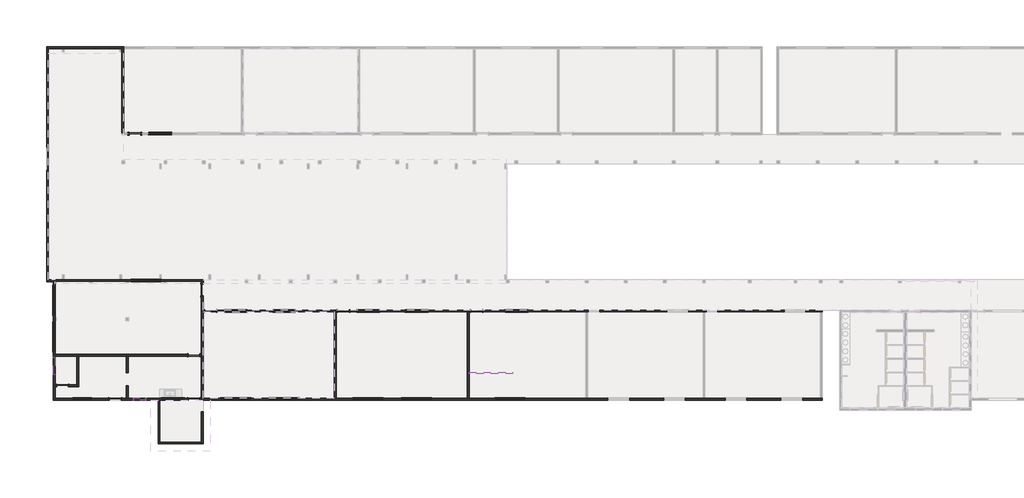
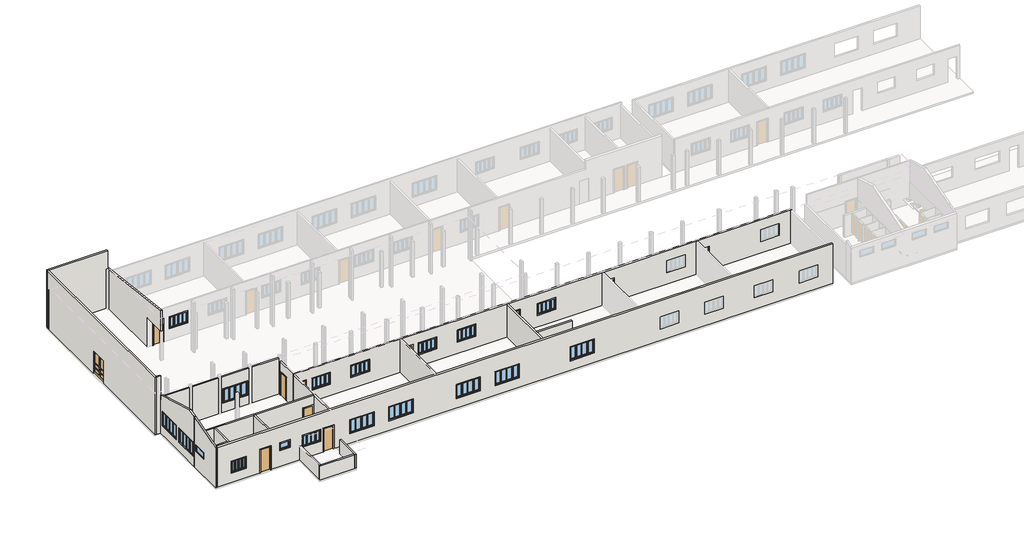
# One storey, part 1 of 5: 21 walls, 18 windows, 10 doors.
"""IFC4 building model written with IfcOpenShell, lengths in millimetres."""

from ifc_helpers import new_model, si_unit, frame, origin, origin_with_axes, place, context, project, spatial, polyline, outline, extrude, faceted_brep, transform, mapped, element, save
from components import double_panel_1_no_trim_1600_x_2100_mm_973be516, m_single_flush_0800_x_2100mm_0fb022da, m_single_flush_0800_x_2100mm_21ec692d, m_single_flush_0813_x_2134mm_26e178a3, m_single_flush_0813_x_2134mm_af9e47f0, casement_quad_w_trim_1200_x_1000_mm_793000f8, casement_quad_w_trim_1500_x_1000_mm_b7d6dd6f, casement_quad_w_trim_1500_x_1000_mm_8fcab8cd, casement_quad_w_trim_2000_x_1000_mm_c4cc244c, casement_quad_w_trim_2000_x_1000_mm_fe9ded81, janela_30db3b55, transom_with_trim_0600_x_0800_mm_3df043d3

model = new_model("IFC4")

# Units and contexts
model_context = context("Model", 3, world=origin())
ifc_project = project(units=[si_unit("LENGTHUNIT", "METRE", prefix="MILLI")], contexts=[model_context])

# Site, building, storey
site = spatial("IfcSite", under=ifc_project)
building = spatial("IfcBuilding", under=site)
storey = spatial("IfcBuildingStorey", under=building, Name="Planta de implantação", Elevation=0.0)

# Doors
placement = place(None, origin())
double_panel_1_no_trim_1600_x_2100_mm_shape = double_panel_1_no_trim_1600_x_2100_mm_973be516(model_context)
element("IfcDoor", 1, ObjectType="Double-Panel 1_no trim : 1600 x 2100 mm", at=placement, inside=storey, context=model_context, shape_type="MappedRepresentation", body=[
    mapped(double_panel_1_no_trim_1600_x_2100_mm_shape, transform((-35375.2352635, -12188.3222718, 0.0), x_axis=(0.0, -1.0, 0.0), y_axis=(1.0, 0.0, 0.0), z_axis=(0.0, 0.0, 1.0))),
])
m_single_flush_0800_x_2100mm_shape = m_single_flush_0800_x_2100mm_0fb022da(model_context)
element("IfcDoor", 2, ObjectType="M_Single-Flush : 0800 x 2100mm", at=placement, inside=storey, context=model_context, shape_type="MappedRepresentation", body=[
    mapped(m_single_flush_0800_x_2100mm_shape, transform((-24140.2352635, -22683.3222718, 0.0), x_axis=(-1.0, 0.0, 0.0), y_axis=(0.0, -1.0, 0.0), z_axis=(0.0, 0.0, 1.0))),
])
element("IfcDoor", 3, ObjectType="M_Single-Flush : 0800 x 2100mm", at=placement, inside=storey, context=model_context, shape_type="MappedRepresentation", body=[
    mapped(m_single_flush_0800_x_2100mm_shape, transform((-14960.2352635, -22683.3222718, 0.0), x_axis=(-1.0, 0.0, 0.0), y_axis=(0.0, -1.0, 0.0), z_axis=(0.0, 0.0, 1.0))),
])
element("IfcDoor", 4, ObjectType="M_Single-Flush : 0800 x 2100mm", at=placement, inside=storey, context=model_context, shape_type="MappedRepresentation", body=[
    mapped(m_single_flush_0800_x_2100mm_shape, transform((-5780.2352635, -22683.3222718, 0.0), x_axis=(-1.0, 0.0, 0.0), y_axis=(0.0, -1.0, 0.0), z_axis=(0.0, 0.0, 1.0))),
])
element("IfcDoor", 5, ObjectType="M_Single-Flush : 0800 x 2100mm", at=placement, inside=storey, context=model_context, shape_type="MappedRepresentation", body=[
    mapped(m_single_flush_0800_x_2100mm_shape, transform((-24705.2352635, -21248.3222718, 0.0), x_axis=(0.0, 1.0, 0.0), y_axis=(-1.0, 0.0, 0.0), z_axis=(0.0, 0.0, 1.0))),
])
m_single_flush_0800_x_2100mm_2_shape = m_single_flush_0800_x_2100mm_21ec692d(model_context)
element("IfcDoor", 6, ObjectType="M_Single-Flush : 0800 x 2100mm", at=placement, inside=storey, context=model_context, shape_type="MappedRepresentation", body=[
    mapped(m_single_flush_0800_x_2100mm_2_shape, transform((-29350.2352635, -10453.3222718, 0.0), x_axis=(-1.0, 0.0, 0.0), y_axis=(0.0, -1.0, 0.0), z_axis=(0.0, 0.0, 1.0))),
])
m_single_flush_0813_x_2134mm_shape = m_single_flush_0813_x_2134mm_26e178a3(model_context)
element("IfcDoor", 7, ObjectType="M_Single-Flush : 0813 x 2134mm", at=placement, inside=storey, context=model_context, shape_type="MappedRepresentation", body=[
    mapped(m_single_flush_0813_x_2134mm_shape, transform((-25270.2352635, -28763.3222718, 0.0), x_axis=(1.0, 0.0, 0.0), y_axis=(0.0, 1.0, 0.0), z_axis=(0.0, 0.0, 1.0))),
])
element("IfcDoor", 8, ObjectType="M_Single-Flush : 0813 x 2134mm", at=placement, inside=storey, context=model_context, shape_type="MappedRepresentation", body=[
    mapped(m_single_flush_0813_x_2134mm_shape, transform((-30700.2352635, -28763.3222718, 0.0), x_axis=(1.0, 0.0, 0.0), y_axis=(0.0, 1.0, 0.0), z_axis=(0.0, 0.0, 1.0))),
])
m_single_flush_0813_x_2134mm_2_shape = m_single_flush_0813_x_2134mm_af9e47f0(model_context)
element("IfcDoor", 9, ObjectType="M_Single-Flush : 0813 x 2134mm", at=placement, inside=storey, context=model_context, shape_type="MappedRepresentation", body=[
    mapped(m_single_flush_0813_x_2134mm_2_shape, transform((-25270.2352635, -25733.3222718, 0.0), x_axis=(1.0, 0.0, 0.0), y_axis=(0.0, 1.0, 0.0), z_axis=(0.0, 0.0, 1.0))),
])
element("IfcDoor", 10, ObjectType="M_Single-Flush : 0813 x 2134mm", at=placement, inside=storey, context=model_context, shape_type="MappedRepresentation", body=[
    mapped(m_single_flush_0813_x_2134mm_2_shape, transform((-34350.2352635, -27833.3222718, 0.0), x_axis=(-1.0, 0.0, 0.0), y_axis=(0.0, -1.0, 0.0), z_axis=(0.0, 0.0, 1.0))),
])

# Walls
element("IfcWall", 11, ObjectType="Generic - 130mm", at=placement, inside=storey, context=model_context, shape_type="SweptSolid", body=[
    extrude(outline(polyline([(-6280.2352635, -26893.3222718), (-3275.2352635, -26893.3222718), (-3275.2352635, -27023.3222718), (-6280.2352635, -27023.3222718), (-6280.2352635, -26893.3222718)])), frame((0.0, 0.0, 2100.0), z_axis=(0.0, 0.0, 1.0), x_axis=(1.0, 0.0, 0.0)), (0.0, 0.0, 1.0), 900.0),
])
element("IfcWall", 12, ObjectType="Generic - 130mm", at=placement, inside=storey, context=model_context, shape_type="Brep", body=[
    faceted_brep([(-30260.2352635, -4458.3222718, 3568.8), (-30260.2352635, -4458.3222718, 0.0), (-30260.2352635, -4588.3222718, 0.0), (-30260.2352635, -10388.3222718, 0.0), (-30260.2352635, -10388.3222718, 2700.0), (-30260.2352635, -10518.3222718, 2700.0), (-30260.2352635, -12518.3222718, 2700.0), (-30260.2352635, -12518.3222718, 4536.0), (-30130.2352635, -4458.3222718, 0.0), (-30130.2352635, -4458.3222718, 3180.0), (-30130.2352635, -4458.3222718, 3568.8), (-30130.2352635, -12518.3222718, 4536.0), (-30130.2352635, -12518.3222718, 2700.0), (-30130.2352635, -10518.3222718, 2700.0), (-30130.2352635, -10388.3222718, 2700.0), (-30130.2352635, -10388.3222718, 0.0), (-30130.2352635, -4588.3222718, 0.0)], [[[0, 1, 2, 3, 4, 5, 6, 7]], [[8, 9, 10, 11, 12, 13, 14, 15, 16]], [[3, 2, 1, 8, 16, 15]], [[6, 5, 4, 14, 13, 12]], [[7, 6, 12, 11]], [[0, 7, 11, 10]], [[0, 10, 9, 8, 1]], [[4, 3, 15, 14]]]),
])
element("IfcWall", 13, ObjectType="Generic - 130mm", at=placement, inside=storey, context=model_context, shape_type="Brep", body=[
    faceted_brep([(-34850.2352635, -28828.3222718, 0.0), (-34850.2352635, -28698.3222718, 0.0), (-34850.2352635, -25798.3222718, 0.0), (-34850.2352635, -25668.3222718, 0.0), (-34850.2352635, -25668.3222718, 3000.0), (-34850.2352635, -25668.3222718, 4533.0), (-34850.2352635, -28698.3222718, 3624.0), (-34850.2352635, -28828.3222718, 3585.0), (-34850.2352635, -27068.3222718, 1500.0), (-34850.2352635, -27068.3222718, 2100.0), (-34850.2352635, -25868.3222718, 2100.0), (-34850.2352635, -25868.3222718, 1500.0), (-34980.2352635, -25668.3222718, 0.0), (-34980.2352635, -28828.3222718, 0.0), (-34980.2352635, -28828.3222718, 3585.0), (-34980.2352635, -25668.3222718, 4533.0), (-34980.2352635, -27068.3222718, 2100.0), (-34980.2352635, -27068.3222718, 1500.0), (-34980.2352635, -25868.3222718, 1500.0), (-34980.2352635, -25868.3222718, 2100.0)], [[[0, 1, 2, 3, 4, 5, 6, 7], [8, 9, 10, 11]], [[12, 13, 14, 15], [16, 17, 18, 19]], [[3, 2, 1, 0, 13, 12]], [[0, 7, 14, 13]], [[5, 4, 3, 12, 15]], [[7, 6, 5, 15, 14]], [[8, 17, 16, 9]], [[9, 16, 19, 10]], [[10, 19, 18, 11]], [[17, 8, 11, 18]]]),
])
element("IfcWall", 14, ObjectType="Generic - 130mm", at=placement, inside=storey, context=model_context, shape_type="Brep", body=[
    faceted_brep([(-34850.2352635, -28828.3222718, 3585.0), (-34850.2352635, -28828.3222718, 0.0), (-31100.2852635, -28828.3222718, 0.0), (-31100.2852635, -28828.3222718, 2100.0), (-30300.1852635, -28828.3222718, 2100.0), (-30300.1852635, -28828.3222718, 0.0), (-27750.2352635, -28828.3222718, 0.0), (-27620.2352635, -28828.3222718, 0.0), (-25670.2852635, -28828.3222718, 0.0), (-25670.2852635, -28828.3222718, 2100.0), (-24870.1852635, -28828.3222718, 2100.0), (-24870.1852635, -28828.3222718, 0.0), (18079.7647365, -28828.3222718, 0.0), (18079.7647365, -28828.3222718, 3585.0), (-33575.2352635, -28828.3222718, 900.0), (-33575.2352635, -28828.3222718, 1900.0), (-32375.2352635, -28828.3222718, 1900.0), (-32375.2352635, -28828.3222718, 900.0), (-29420.2352635, -28828.3222718, 1500.0), (-29420.2352635, -28828.3222718, 2100.0), (-28620.2352635, -28828.3222718, 2100.0), (-28620.2352635, -28828.3222718, 1500.0), (-23390.2352635, -28828.3222718, 900.0), (-23390.2352635, -28828.3222718, 2100.0), (-21390.2352635, -28828.3222718, 2100.0), (-21390.2352635, -28828.3222718, 900.0), (-20040.2352635, -28828.3222718, 900.0), (-20040.2352635, -28828.3222718, 2100.0), (-18040.2352635, -28828.3222718, 2100.0), (-18040.2352635, -28828.3222718, 900.0), (-14260.2352635, -28828.3222718, 900.0), (-14260.2352635, -28828.3222718, 2100.0), (-12260.2352635, -28828.3222718, 2100.0), (-12260.2352635, -28828.3222718, 900.0), (-10910.2352635, -28828.3222718, 900.0), (-10910.2352635, -28828.3222718, 2100.0), (-8910.2352635, -28828.3222718, 2100.0), (-8910.2352635, -28828.3222718, 900.0), (-4455.2352635, -28828.3222718, 900.0), (-4455.2352635, -28828.3222718, 2100.0), (-2455.2352635, -28828.3222718, 2100.0), (-2455.2352635, -28828.3222718, 900.0), (3279.7647365, -28828.3222718, 1100.0), (3279.7647365, -28828.3222718, 2100.0), (4779.7647365, -28828.3222718, 2100.0), (4779.7647365, -28828.3222718, 1100.0), (7129.7647365, -28828.3222718, 1100.0), (7129.7647365, -28828.3222718, 2100.0), (8629.7647365, -28828.3222718, 2100.0), (8629.7647365, -28828.3222718, 1100.0), (-27470.2352635, -28828.3222718, 1100.0), (-27470.2352635, -28828.3222718, 2100.0), (-25970.2352635, -28828.3222718, 2100.0), (-25970.2352635, -28828.3222718, 1100.0), (11379.7647365, -28828.3222718, 1100.0), (11379.7647365, -28828.3222718, 2100.0), (12879.7647365, -28828.3222718, 2100.0), (12879.7647365, -28828.3222718, 1100.0), (15229.7647365, -28828.3222718, 1100.0), (15229.7647365, -28828.3222718, 2100.0), (16729.7647365, -28828.3222718, 2100.0), (16729.7647365, -28828.3222718, 1100.0), (-34850.2352635, -28698.3222718, 0.0), (-34850.2352635, -28698.3222718, 3624.0), (18079.7647365, -28698.3222718, 3624.0), (18079.7647365, -28698.3222718, 3000.0), (18079.7647365, -28698.3222718, 0.0), (17949.7647365, -28698.3222718, 0.0), (9979.7647365, -28698.3222718, 0.0), (9849.7647365, -28698.3222718, 0.0), (1899.7647365, -28698.3222718, 0.0), (1769.7647365, -28698.3222718, 0.0), (-6280.2352635, -28698.3222718, 0.0), (-6410.2352635, -28698.3222718, 0.0), (-15460.2352635, -28698.3222718, 0.0), (-15590.2352635, -28698.3222718, 0.0), (-24640.2352635, -28698.3222718, 0.0), (-24770.2352635, -28698.3222718, 0.0), (-24870.1852635, -28698.3222718, 0.0), (-24870.1852635, -28698.3222718, 2100.0), (-25670.2852635, -28698.3222718, 2100.0), (-25670.2852635, -28698.3222718, 0.0), (-29820.2352635, -28698.3222718, 0.0), (-29950.2352635, -28698.3222718, 0.0), (-30300.1852635, -28698.3222718, 0.0), (-30300.1852635, -28698.3222718, 2100.0), (-31100.2852635, -28698.3222718, 2100.0), (-31100.2852635, -28698.3222718, 0.0), (-33575.2352635, -28698.3222718, 1900.0), (-33575.2352635, -28698.3222718, 900.0), (-32375.2352635, -28698.3222718, 900.0), (-32375.2352635, -28698.3222718, 1900.0), (-29420.2352635, -28698.3222718, 2100.0), (-29420.2352635, -28698.3222718, 1500.0), (-28620.2352635, -28698.3222718, 1500.0), (-28620.2352635, -28698.3222718, 2100.0), (-23390.2352635, -28698.3222718, 2100.0), (-23390.2352635, -28698.3222718, 900.0), (-21390.2352635, -28698.3222718, 900.0), (-21390.2352635, -28698.3222718, 2100.0), (-20040.2352635, -28698.3222718, 2100.0), (-20040.2352635, -28698.3222718, 900.0), (-18040.2352635, -28698.3222718, 900.0), (-18040.2352635, -28698.3222718, 2100.0), (-14260.2352635, -28698.3222718, 2100.0), (-14260.2352635, -28698.3222718, 900.0), (-12260.2352635, -28698.3222718, 900.0), (-12260.2352635, -28698.3222718, 2100.0), (-10910.2352635, -28698.3222718, 2100.0), (-10910.2352635, -28698.3222718, 900.0), (-8910.2352635, -28698.3222718, 900.0), (-8910.2352635, -28698.3222718, 2100.0), (-4455.2352635, -28698.3222718, 2100.0), (-4455.2352635, -28698.3222718, 900.0), (-2455.2352635, -28698.3222718, 900.0), (-2455.2352635, -28698.3222718, 2100.0), (3279.7647365, -28698.3222718, 2100.0), (3279.7647365, -28698.3222718, 1100.0), (4779.7647365, -28698.3222718, 1100.0), (4779.7647365, -28698.3222718, 2100.0), (7129.7647365, -28698.3222718, 2100.0), (7129.7647365, -28698.3222718, 1100.0), (8629.7647365, -28698.3222718, 1100.0), (8629.7647365, -28698.3222718, 2100.0), (-27470.2352635, -28698.3222718, 2100.0), (-27470.2352635, -28698.3222718, 1100.0), (-25970.2352635, -28698.3222718, 1100.0), (-25970.2352635, -28698.3222718, 2100.0), (11379.7647365, -28698.3222718, 2100.0), (11379.7647365, -28698.3222718, 1100.0), (12879.7647365, -28698.3222718, 1100.0), (12879.7647365, -28698.3222718, 2100.0), (15229.7647365, -28698.3222718, 2100.0), (15229.7647365, -28698.3222718, 1100.0), (16729.7647365, -28698.3222718, 1100.0), (16729.7647365, -28698.3222718, 2100.0)], [[[0, 1, 2, 3, 4, 5, 6, 7, 8, 9, 10, 11, 12, 13], [14, 15, 16, 17], [18, 19, 20, 21], [22, 23, 24, 25], [26, 27, 28, 29], [30, 31, 32, 33], [34, 35, 36, 37], [38, 39, 40, 41], [42, 43, 44, 45], [46, 47, 48, 49], [50, 51, 52, 53], [54, 55, 56, 57], [58, 59, 60, 61]], [[62, 63, 64, 65, 66, 67, 68, 69, 70, 71, 72, 73, 74, 75, 76, 77, 78, 79, 80, 81, 82, 83, 84, 85, 86, 87], [88, 89, 90, 91], [92, 93, 94, 95], [96, 97, 98, 99], [100, 101, 102, 103], [104, 105, 106, 107], [108, 109, 110, 111], [112, 113, 114, 115], [116, 117, 118, 119], [120, 121, 122, 123], [124, 125, 126, 127], [128, 129, 130, 131], [132, 133, 134, 135]], [[1, 62, 87, 2]], [[66, 12, 11, 78, 77, 76, 75, 74, 73, 72, 71, 70, 69, 68, 67]], [[81, 8, 7, 6, 5, 84, 83, 82]], [[1, 0, 63, 62]], [[13, 12, 66, 65, 64]], [[0, 13, 64, 63]], [[79, 78, 11, 10]], [[80, 79, 10, 9]], [[81, 80, 9, 8]], [[85, 84, 5, 4]], [[86, 85, 4, 3]], [[87, 86, 3, 2]], [[89, 88, 15, 14]], [[90, 89, 14, 17]], [[91, 90, 17, 16]], [[88, 91, 16, 15]], [[93, 92, 19, 18]], [[94, 93, 18, 21]], [[95, 94, 21, 20]], [[92, 95, 20, 19]], [[97, 96, 23, 22]], [[98, 97, 22, 25]], [[99, 98, 25, 24]], [[96, 99, 24, 23]], [[101, 100, 27, 26]], [[102, 101, 26, 29]], [[103, 102, 29, 28]], [[100, 103, 28, 27]], [[105, 104, 31, 30]], [[106, 105, 30, 33]], [[107, 106, 33, 32]], [[104, 107, 32, 31]], [[109, 108, 35, 34]], [[110, 109, 34, 37]], [[111, 110, 37, 36]], [[108, 111, 36, 35]], [[113, 112, 39, 38]], [[114, 113, 38, 41]], [[115, 114, 41, 40]], [[112, 115, 40, 39]], [[117, 116, 43, 42]], [[118, 117, 42, 45]], [[119, 118, 45, 44]], [[116, 119, 44, 43]], [[121, 120, 47, 46]], [[122, 121, 46, 49]], [[123, 122, 49, 48]], [[120, 123, 48, 47]], [[125, 124, 51, 50]], [[126, 125, 50, 53]], [[127, 126, 53, 52]], [[124, 127, 52, 51]], [[128, 55, 54, 129]], [[129, 54, 57, 130]], [[130, 57, 56, 131]], [[55, 128, 131, 56]], [[132, 59, 58, 133]], [[133, 58, 61, 134]], [[134, 61, 60, 135]], [[59, 132, 135, 60]]]),
])
element("IfcWall", 15, ObjectType="Generic - 130mm", at=placement, inside=storey, context=model_context, shape_type="Brep", body=[
    faceted_brep([(18079.7647365, -22748.3222718, 3000.0), (17949.7647365, -22748.3222718, 3000.0), (9979.7647365, -22748.3222718, 3000.0), (9849.7647365, -22748.3222718, 3000.0), (1899.7647365, -22748.3222718, 3000.0), (1769.7647365, -22748.3222718, 3000.0), (-6280.2352635, -22748.3222718, 3000.0), (-6410.2352635, -22748.3222718, 3000.0), (-15460.2352635, -22748.3222718, 3000.0), (-15590.2352635, -22748.3222718, 3000.0), (-24640.2352635, -22748.3222718, 3000.0), (-24770.2352635, -22748.3222718, 3000.0), (-24770.2352635, -22748.3222718, 0.0), (-24640.2352635, -22748.3222718, 0.0), (-24540.2352635, -22748.3222718, 0.0), (-24540.2352635, -22748.3222718, 2100.0), (-23740.2352635, -22748.3222718, 2100.0), (-23740.2352635, -22748.3222718, 0.0), (-15590.2352635, -22748.3222718, 0.0), (-15460.2352635, -22748.3222718, 0.0), (-15360.2352635, -22748.3222718, 0.0), (-15360.2352635, -22748.3222718, 2100.0), (-14560.2352635, -22748.3222718, 2100.0), (-14560.2352635, -22748.3222718, 0.0), (-6410.2352635, -22748.3222718, 0.0), (-6280.2352635, -22748.3222718, 0.0), (-6180.2352635, -22748.3222718, 0.0), (-6180.2352635, -22748.3222718, 2100.0), (-5380.2352635, -22748.3222718, 2100.0), (-5380.2352635, -22748.3222718, 0.0), (1769.7647365, -22748.3222718, 0.0), (1899.7647365, -22748.3222718, 0.0), (1939.7647365, -22748.3222718, 0.0), (1939.7647365, -22748.3222718, 2100.0), (2739.7647365, -22748.3222718, 2100.0), (2739.7647365, -22748.3222718, 0.0), (9849.7647365, -22748.3222718, 0.0), (9979.7647365, -22748.3222718, 0.0), (10079.7647365, -22748.3222718, 0.0), (10079.7647365, -22748.3222718, 2100.0), (10879.7647365, -22748.3222718, 2100.0), (10879.7647365, -22748.3222718, 0.0), (17949.7647365, -22748.3222718, 0.0), (18079.7647365, -22748.3222718, 0.0), (15444.7647365, -22748.3222718, 1100.0), (15444.7647365, -22748.3222718, 2100.0), (16944.7647365, -22748.3222718, 2100.0), (16944.7647365, -22748.3222718, 1100.0), (7349.7647365, -22748.3222718, 1100.0), (7349.7647365, -22748.3222718, 2100.0), (8849.7647365, -22748.3222718, 2100.0), (8849.7647365, -22748.3222718, 1100.0), (-3755.2352635, -22748.3222718, 2100.0), (-2255.2352635, -22748.3222718, 2100.0), (-2255.2352635, -22748.3222718, 1100.0), (-3755.2352635, -22748.3222718, 1100.0), (-14010.2352635, -22748.3222718, 2100.0), (-12510.2352635, -22748.3222718, 2100.0), (-12510.2352635, -22748.3222718, 1100.0), (-14010.2352635, -22748.3222718, 1100.0), (-9160.2352635, -22748.3222718, 2100.0), (-9160.2352635, -22748.3222718, 1100.0), (-10660.2352635, -22748.3222718, 1100.0), (-10660.2352635, -22748.3222718, 2100.0), (-23140.2352635, -22748.3222718, 2100.0), (-21640.2352635, -22748.3222718, 2100.0), (-21640.2352635, -22748.3222718, 1100.0), (-23140.2352635, -22748.3222718, 1100.0), (-18290.2352635, -22748.3222718, 2100.0), (-18290.2352635, -22748.3222718, 1100.0), (-19790.2352635, -22748.3222718, 1100.0), (-19790.2352635, -22748.3222718, 2100.0), (-24770.2352635, -22618.3222718, 3000.0), (-24640.2352635, -22618.3222718, 3000.0), (18079.7647365, -22618.3222718, 3000.0), (18079.7647365, -22618.3222718, 0.0), (10879.7647365, -22618.3222718, 0.0), (10879.7647365, -22618.3222718, 2100.0), (10079.7647365, -22618.3222718, 2100.0), (10079.7647365, -22618.3222718, 0.0), (2739.7647365, -22618.3222718, 0.0), (2739.7647365, -22618.3222718, 2100.0), (1939.7647365, -22618.3222718, 2100.0), (1939.7647365, -22618.3222718, 0.0), (-5380.2352635, -22618.3222718, 0.0), (-5380.2352635, -22618.3222718, 2100.0), (-6180.2352635, -22618.3222718, 2100.0), (-6180.2352635, -22618.3222718, 0.0), (-14560.2352635, -22618.3222718, 0.0), (-14560.2352635, -22618.3222718, 2100.0), (-15360.2352635, -22618.3222718, 2100.0), (-15360.2352635, -22618.3222718, 0.0), (-23740.2352635, -22618.3222718, 0.0), (-23740.2352635, -22618.3222718, 2100.0), (-24540.2352635, -22618.3222718, 2100.0), (-24540.2352635, -22618.3222718, 0.0), (-24640.2352635, -22618.3222718, 0.0), (-24770.2352635, -22618.3222718, 0.0), (15444.7647365, -22618.3222718, 2100.0), (15444.7647365, -22618.3222718, 1100.0), (16944.7647365, -22618.3222718, 1100.0), (16944.7647365, -22618.3222718, 2100.0), (7349.7647365, -22618.3222718, 2100.0), (7349.7647365, -22618.3222718, 1100.0), (8849.7647365, -22618.3222718, 1100.0), (8849.7647365, -22618.3222718, 2100.0), (-3755.2352635, -22618.3222718, 2100.0), (-3755.2352635, -22618.3222718, 1100.0), (-2255.2352635, -22618.3222718, 1100.0), (-2255.2352635, -22618.3222718, 2100.0), (-14010.2352635, -22618.3222718, 2100.0), (-14010.2352635, -22618.3222718, 1100.0), (-12510.2352635, -22618.3222718, 1100.0), (-12510.2352635, -22618.3222718, 2100.0), (-9160.2352635, -22618.3222718, 2100.0), (-10660.2352635, -22618.3222718, 2100.0), (-10660.2352635, -22618.3222718, 1100.0), (-9160.2352635, -22618.3222718, 1100.0), (-23140.2352635, -22618.3222718, 2100.0), (-23140.2352635, -22618.3222718, 1100.0), (-21640.2352635, -22618.3222718, 1100.0), (-21640.2352635, -22618.3222718, 2100.0), (-18290.2352635, -22618.3222718, 2100.0), (-19790.2352635, -22618.3222718, 2100.0), (-19790.2352635, -22618.3222718, 1100.0), (-18290.2352635, -22618.3222718, 1100.0)], [[[0, 1, 2, 3, 4, 5, 6, 7, 8, 9, 10, 11, 12, 13, 14, 15, 16, 17, 18, 19, 20, 21, 22, 23, 24, 25, 26, 27, 28, 29, 30, 31, 32, 33, 34, 35, 36, 37, 38, 39, 40, 41, 42, 43], [44, 45, 46, 47], [48, 49, 50, 51], [52, 53, 54, 55], [56, 57, 58, 59], [60, 61, 62, 63], [64, 65, 66, 67], [68, 69, 70, 71]], [[72, 73, 74, 75, 76, 77, 78, 79, 80, 81, 82, 83, 84, 85, 86, 87, 88, 89, 90, 91, 92, 93, 94, 95, 96, 97], [98, 99, 100, 101], [102, 103, 104, 105], [106, 107, 108, 109], [110, 111, 112, 113], [114, 115, 116, 117], [118, 119, 120, 121], [122, 123, 124, 125]], [[95, 14, 13, 12, 97, 96]], [[17, 92, 91, 20, 19, 18]], [[23, 88, 87, 26, 25, 24]], [[29, 84, 83, 32, 31, 30]], [[35, 80, 79, 38, 37, 36]], [[41, 76, 75, 43, 42]], [[11, 10, 9, 8, 7, 6, 5, 4, 3, 2, 1, 0, 74, 73, 72]], [[15, 14, 95, 94]], [[16, 15, 94, 93]], [[17, 16, 93, 92]], [[21, 20, 91, 90]], [[22, 21, 90, 89]], [[23, 22, 89, 88]], [[27, 26, 87, 86]], [[28, 27, 86, 85]], [[29, 28, 85, 84]], [[33, 32, 83, 82]], [[34, 33, 82, 81]], [[35, 34, 81, 80]], [[39, 38, 79, 78]], [[40, 39, 78, 77]], [[41, 40, 77, 76]], [[12, 11, 72, 97]], [[0, 43, 75, 74]], [[98, 45, 44, 99]], [[99, 44, 47, 100]], [[100, 47, 46, 101]], [[45, 98, 101, 46]], [[102, 49, 48, 103]], [[103, 48, 51, 104]], [[104, 51, 50, 105]], [[49, 102, 105, 50]], [[107, 106, 52, 55]], [[108, 107, 55, 54]], [[109, 108, 54, 53]], [[106, 109, 53, 52]], [[111, 110, 56, 59]], [[112, 111, 59, 58]], [[113, 112, 58, 57]], [[110, 113, 57, 56]], [[61, 60, 114, 117]], [[62, 61, 117, 116]], [[63, 62, 116, 115]], [[60, 63, 115, 114]], [[119, 118, 64, 67]], [[120, 119, 67, 66]], [[121, 120, 66, 65]], [[118, 121, 65, 64]], [[69, 68, 122, 125]], [[70, 69, 125, 124]], [[71, 70, 124, 123]], [[68, 71, 123, 122]]]),
])
element("IfcWall", 16, ObjectType="Generic - 130mm", at=placement, inside=storey, context=model_context, shape_type="Brep", body=[
    faceted_brep([(-24640.2352635, -28698.3222718, 0.0), (-24640.2352635, -22748.3222718, 0.0), (-24640.2352635, -22748.3222718, 3000.0), (-24640.2352635, -28698.3222718, 3000.0), (-24770.2352635, -28698.3222718, 0.0), (-24770.2352635, -28698.3222718, 3000.0), (-24770.2352635, -25798.3222718, 3000.0), (-24770.2352635, -25668.3222718, 3000.0), (-24770.2352635, -22748.3222718, 3000.0), (-24770.2352635, -22748.3222718, 0.0), (-24770.2352635, -25668.3222718, 0.0), (-24770.2352635, -25798.3222718, 0.0)], [[[0, 1, 2, 3]], [[4, 5, 6, 7, 8, 9, 10, 11]], [[1, 0, 4, 11, 10, 9]], [[3, 2, 8, 7, 6, 5]], [[0, 3, 5, 4]], [[2, 1, 9, 8]]]),
])
element("IfcWall", 17, ObjectType="Generic - 130mm", at=placement, inside=storey, context=model_context, shape_type="SweptSolid", body=[
    extrude(outline(polyline([(-15460.2352635, -22748.3222718), (-15460.2352635, -28698.3222718), (-15590.2352635, -28698.3222718), (-15590.2352635, -22748.3222718), (-15460.2352635, -22748.3222718)])), origin_with_axes(), (0.0, 0.0, 1.0), 3000.0),
])
element("IfcWall", 18, ObjectType="Generic - 130mm", at=placement, inside=storey, context=model_context, shape_type="Brep", body=[
    faceted_brep([(-6280.2352635, -28698.3222718, 0.0), (-6280.2352635, -22748.3222718, 0.0), (-6280.2352635, -22748.3222718, 3000.0), (-6280.2352635, -26893.3222718, 3000.0), (-6280.2352635, -27023.3222718, 3000.0), (-6280.2352635, -28698.3222718, 3000.0), (-6410.2352635, -28698.3222718, 0.0), (-6410.2352635, -28698.3222718, 3000.0), (-6410.2352635, -22748.3222718, 3000.0), (-6410.2352635, -22748.3222718, 0.0)], [[[0, 1, 2, 3, 4, 5]], [[6, 7, 8, 9]], [[1, 0, 6, 9]], [[5, 4, 3, 2, 8, 7]], [[0, 5, 7, 6]], [[2, 1, 9, 8]]]),
])
element("IfcWall", 19, ObjectType="Generic - 130mm", at=placement, inside=storey, context=model_context, shape_type="SweptSolid", body=[
    extrude(outline(polyline([(-28698.3222718, 3000.0), (-25798.3222718, 3000.0), (-25798.3222718, 0.0), (-26948.3222718, 0.0), (-26948.3222718, 2100.0), (-27848.3222718, 2100.0), (-27848.3222718, 0.0), (-28698.3222718, 0.0), (-28698.3222718, 3000.0)])), frame((-29950.2352635, 0.0, 0.0), z_axis=(1.0, 0.0, 0.0), x_axis=(0.0, 1.0, 0.0)), (0.0, 0.0, 1.0), 130.0),
])
element("IfcWall", 20, ObjectType="Generic - 130mm", at=placement, inside=storey, context=model_context, shape_type="Brep", body=[
    faceted_brep([(-24770.2352635, -25668.3222718, 0.0), (-24870.1852635, -25668.3222718, 0.0), (-24870.1852635, -25668.3222718, 2100.0), (-25670.2852635, -25668.3222718, 2100.0), (-25670.2852635, -25668.3222718, 0.0), (-34850.2352635, -25668.3222718, 0.0), (-34850.2352635, -25668.3222718, 3000.0), (-24770.2352635, -25668.3222718, 3000.0), (-24870.1852635, -25798.3222718, 2100.0), (-24870.1852635, -25798.3222718, 0.0), (-24770.2352635, -25798.3222718, 0.0), (-24770.2352635, -25798.3222718, 3000.0), (-29820.2352635, -25798.3222718, 3000.0), (-29950.2352635, -25798.3222718, 3000.0), (-34850.2352635, -25798.3222718, 3000.0), (-34850.2352635, -25798.3222718, 0.0), (-29950.2352635, -25798.3222718, 0.0), (-29820.2352635, -25798.3222718, 0.0), (-25670.2852635, -25798.3222718, 0.0), (-25670.2852635, -25798.3222718, 2100.0)], [[[0, 1, 2, 3, 4, 5, 6, 7]], [[8, 9, 10, 11, 12, 13, 14, 15, 16, 17, 18, 19]], [[18, 17, 16, 15, 5, 4]], [[10, 9, 1, 0]], [[7, 6, 14, 13, 12, 11]], [[0, 7, 11, 10]], [[6, 5, 15, 14]], [[2, 1, 9, 8]], [[3, 2, 8, 19]], [[4, 3, 19, 18]]]),
])
element("IfcWall", 21, ObjectType="Generic - 130mm", at=placement, inside=storey, context=model_context, shape_type="SweptSolid", body=[
    extrude(outline(polyline([(-24770.2352635, -31858.3222718), (-24770.2352635, -29628.3222718), (-24640.2352635, -29628.3222718), (-24640.2352635, -31858.3222718), (-24770.2352635, -31858.3222718)])), origin_with_axes(), (0.0, 0.0, 1.0), 1250.0),
])
element("IfcWall", 22, ObjectType="Generic - 130mm", at=placement, inside=storey, context=model_context, shape_type="Brep", body=[
    faceted_brep([(-24770.2352635, -31728.3222718, 0.0), (-27620.2352635, -31728.3222718, 0.0), (-27750.2352635, -31728.3222718, 0.0), (-27750.2352635, -31728.3222718, 1250.1911148), (-27750.2352635, -31728.3222718, 1254.837294), (-24770.2352635, -31728.3222718, 1254.837294), (-24770.2352635, -31858.3222718, 0.0), (-24770.2352635, -31858.3222718, 1254.837294), (-27750.2352635, -31858.3222718, 1254.837294), (-27750.2352635, -31858.3222718, 0.0)], [[[0, 1, 2, 3, 4, 5]], [[6, 7, 8, 9]], [[2, 1, 0, 6, 9]], [[5, 4, 8, 7]], [[0, 5, 7, 6]], [[4, 3, 2, 9, 8]]]),
])
element("IfcWall", 23, ObjectType="Generic - 130mm", at=placement, inside=storey, context=model_context, shape_type="SweptSolid", body=[
    extrude(outline(polyline([(-27620.2352635, -28828.3222718), (-27620.2352635, -31728.3222718), (-27750.2352635, -31728.3222718), (-27750.2352635, -28828.3222718), (-27620.2352635, -28828.3222718)])), origin_with_axes(), (0.0, 0.0, 1.0), 1250.1911148),
])
element("IfcWall", 24, ObjectType="Generic - 130mm", at=placement, inside=storey, context=model_context, shape_type="Brep", body=[
    faceted_brep([(-24640.2352635, -20518.3222718, 0.0), (-34980.2352635, -20518.3222718, 0.0), (-34980.2352635, -20518.3222718, 3238.4457071), (-24640.2352635, -20518.3222718, 3238.4457071), (-29570.2352635, -20518.3222718, 2100.0), (-29570.2352635, -20518.3222718, 900.0), (-27570.2352635, -20518.3222718, 900.0), (-27570.2352635, -20518.3222718, 2100.0), (-34980.2352635, -20648.3222718, 0.0), (-34850.2352635, -20648.3222718, 0.0), (-24770.2352635, -20648.3222718, 0.0), (-24640.2352635, -20648.3222718, 0.0), (-24640.2352635, -20648.3222718, 3000.0), (-24640.2352635, -20648.3222718, 3238.4457071), (-34980.2352635, -20648.3222718, 3238.4457071), (-34980.2352635, -20648.3222718, 3000.0), (-29570.2352635, -20648.3222718, 900.0), (-29570.2352635, -20648.3222718, 2100.0), (-27570.2352635, -20648.3222718, 2100.0), (-27570.2352635, -20648.3222718, 900.0), (-34980.2352635, -20528.3222718, 0.0)], [[[0, 1, 2, 3], [4, 5, 6, 7]], [[8, 9, 10, 11, 12, 13, 14, 15], [16, 17, 18, 19]], [[2, 1, 20, 8, 15, 14]], [[0, 3, 13, 12, 11]], [[4, 17, 16, 5]], [[5, 16, 19, 6]], [[6, 19, 18, 7]], [[17, 4, 7, 18]], [[1, 0, 11, 10, 9, 8, 20]], [[3, 2, 14, 13]]]),
])
element("IfcWall", 25, ObjectType="Generic - 130mm", at=placement, inside=storey, context=model_context, shape_type="Brep", body=[
    faceted_brep([(-34980.2352635, -20648.3222718, 0.0), (-34980.2352635, -20658.3222718, 0.0), (-34980.2352635, -25668.3222718, 0.0), (-34980.2352635, -25668.3222718, 4533.0), (-34980.2352635, -24948.3222718, 4749.0), (-34980.2352635, -20718.3222718, 3480.0), (-34980.2352635, -20718.3222718, 3000.0), (-34980.2352635, -20648.3222718, 3000.0), (-34980.2352635, -23468.3222718, 900.0), (-34980.2352635, -23468.3222718, 2100.0), (-34980.2352635, -25468.3222718, 2100.0), (-34980.2352635, -25468.3222718, 900.0), (-34980.2352635, -20948.3222718, 900.0), (-34980.2352635, -20948.3222718, 2100.0), (-34980.2352635, -22948.3222718, 2100.0), (-34980.2352635, -22948.3222718, 900.0), (-34850.2352635, -25668.3222718, 0.0), (-34850.2352635, -20648.3222718, 0.0), (-34850.2352635, -20648.3222718, 3000.0), (-34850.2352635, -20718.3222718, 3000.0), (-34850.2352635, -20718.3222718, 3480.0), (-34850.2352635, -24948.3222718, 4749.0), (-34850.2352635, -25668.3222718, 4533.0), (-34850.2352635, -23468.3222718, 2100.0), (-34850.2352635, -23468.3222718, 900.0), (-34850.2352635, -25468.3222718, 900.0), (-34850.2352635, -25468.3222718, 2100.0), (-34850.2352635, -20948.3222718, 2100.0), (-34850.2352635, -20948.3222718, 900.0), (-34850.2352635, -22948.3222718, 900.0), (-34850.2352635, -22948.3222718, 2100.0)], [[[0, 1, 2, 3, 4, 5, 6, 7], [8, 9, 10, 11], [12, 13, 14, 15]], [[16, 17, 18, 19, 20, 21, 22], [23, 24, 25, 26], [27, 28, 29, 30]], [[2, 1, 0, 17, 16]], [[0, 7, 18, 17]], [[3, 2, 16, 22]], [[23, 9, 8, 24]], [[24, 8, 11, 25]], [[25, 11, 10, 26]], [[9, 23, 26, 10]], [[27, 13, 12, 28]], [[28, 12, 15, 29]], [[29, 15, 14, 30]], [[13, 27, 30, 14]], [[18, 7, 6, 19]], [[19, 6, 5, 20]], [[20, 5, 4, 21]], [[3, 22, 21, 4]]]),
])
element("IfcWall", 26, ObjectType="Generic - 130mm", at=placement, inside=storey, context=model_context, shape_type="SweptSolid", body=[
    extrude(outline(polyline([(-22618.3222718, 3000.0), (-20648.3222718, 3000.0), (-20648.3222718, 0.0), (-20848.3222718, 0.0), (-20848.3222718, 2100.0), (-21648.3222718, 2100.0), (-21648.3222718, 0.0), (-22618.3222718, 0.0), (-22618.3222718, 3000.0)])), frame((-24770.2352635, 0.0, 0.0), z_axis=(1.0, 0.0, 0.0), x_axis=(0.0, 1.0, 0.0)), (0.0, 0.0, 1.0), 130.0),
])
element("IfcWall", 27, ObjectType="Generic - 130mm", at=placement, inside=storey, context=model_context, shape_type="Brep", body=[
    faceted_brep([(-33350.2352635, -25798.3222718, 0.0), (-33350.2352635, -27768.3222718, 0.0), (-33350.2352635, -27898.3222718, 0.0), (-33350.2352635, -27898.3222718, 3000.0), (-33350.2352635, -27768.3222718, 3000.0), (-33350.2352635, -25798.3222718, 3000.0), (-33220.2352635, -25798.3222718, 0.0), (-33220.2352635, -25798.3222718, 3000.0), (-33220.2352635, -27898.3222718, 3000.0), (-33220.2352635, -27898.3222718, 0.0)], [[[0, 1, 2, 3, 4, 5]], [[6, 7, 8, 9]], [[2, 1, 0, 6, 9]], [[5, 4, 3, 8, 7]], [[0, 5, 7, 6]], [[3, 2, 9, 8]]]),
])
element("IfcWall", 28, ObjectType="Generic - 130mm", at=placement, inside=storey, context=model_context, shape_type="SweptSolid", body=[
    extrude(outline(polyline([(0.0, -34850.2352635), (0.0, -34750.2852635), (2100.0, -34750.2852635), (2100.0, -33950.1852635), (0.0, -33950.1852635), (0.0, -33350.2352635), (3000.0, -33350.2352635), (3000.0, -34850.2352635), (0.0, -34850.2352635)])), frame((0.0, -27898.3222718, 0.0), z_axis=(0.0, 1.0, 0.0), x_axis=(0.0, 0.0, 1.0)), (0.0, 0.0, 1.0), 130.0),
])
element("IfcWall", 29, ObjectType="Generic - 130mm", at=placement, inside=storey, context=model_context, shape_type="Brep", body=[
    faceted_brep([(-30260.2352635, -4458.3222718, 0.0), (-35440.2352635, -4458.3222718, 0.0), (-35440.2352635, -4458.3222718, 5200.0), (-30260.2352635, -4458.3222718, 5200.0), (-30260.2352635, -4458.3222718, 3568.8), (-30260.2352635, -4588.3222718, 0.0), (-30260.2352635, -4588.3222718, 5200.0), (-35310.2352635, -4588.3222718, 5200.0), (-35440.2352635, -4588.3222718, 5200.0), (-35440.2352635, -4588.3222718, 0.0), (-35310.2352635, -4588.3222718, 0.0)], [[[0, 1, 2, 3, 4]], [[5, 6, 7, 8, 9, 10]], [[1, 0, 5, 10, 9]], [[3, 2, 8, 7, 6]], [[0, 4, 3, 6, 5]], [[2, 1, 9, 8]]]),
])
element("IfcWall", 30, ObjectType="Generic - 130mm", at=placement, inside=storey, context=model_context, shape_type="Brep", body=[
    faceted_brep([(-35440.2352635, -20658.3222718, 5200.0), (-35440.2352635, -4588.3222718, 5200.0), (-35440.2352635, -4588.3222718, 0.0), (-35440.2352635, -11388.3222718, 0.0), (-35440.2352635, -11388.3222718, 2100.0), (-35440.2352635, -12988.3222718, 2100.0), (-35440.2352635, -12988.3222718, 0.0), (-35440.2352635, -20658.3222718, 0.0), (-35310.2352635, -4588.3222718, 5200.0), (-35310.2352635, -20528.3222718, 5200.0), (-35310.2352635, -20658.3222718, 5200.0), (-35310.2352635, -20658.3222718, 0.0), (-35310.2352635, -20528.3222718, 0.0), (-35310.2352635, -12988.3222718, 0.0), (-35310.2352635, -12988.3222718, 2100.0), (-35310.2352635, -11388.3222718, 2100.0), (-35310.2352635, -11388.3222718, 0.0), (-35310.2352635, -4588.3222718, 0.0)], [[[0, 1, 2, 3, 4, 5, 6, 7]], [[8, 9, 10, 11, 12, 13, 14, 15, 16, 17]], [[2, 17, 16, 3]], [[11, 7, 6, 13, 12]], [[1, 0, 10, 9, 8]], [[2, 1, 8, 17]], [[0, 7, 11, 10]], [[5, 14, 13, 6]], [[14, 5, 4, 15]], [[15, 4, 3, 16]]]),
])
element("IfcWall", 31, ObjectType="Generic - 130mm", at=placement, inside=storey, context=model_context, shape_type="Brep", body=[
    faceted_brep([(-35310.2352635, -20658.3222718, 0.0), (-34980.2352635, -20658.3222718, 0.0), (-34980.2352635, -20658.3222718, 5200.0), (-35310.2352635, -20658.3222718, 5200.0), (-35310.2352635, -20528.3222718, 0.0), (-35310.2352635, -20528.3222718, 5200.0), (-34980.2352635, -20528.3222718, 5200.0), (-34980.2352635, -20528.3222718, 0.0), (-34980.2352635, -20648.3222718, 0.0)], [[[0, 1, 2, 3]], [[4, 5, 6, 7]], [[1, 0, 4, 7, 8]], [[3, 2, 6, 5]], [[0, 3, 5, 4]], [[2, 1, 8, 7, 6]]]),
])

# Windows
casement_quad_w_trim_1200_x_1000_mm_shape = casement_quad_w_trim_1200_x_1000_mm_793000f8(model_context)
element("IfcWindow", 32, ObjectType="Casement-Quad w Trim : 1200 x 1000 mm", at=placement, inside=storey, context=model_context, shape_type="MappedRepresentation", body=[
    mapped(casement_quad_w_trim_1200_x_1000_mm_shape, transform((-32975.2352635, -28782.3722718, -14.4), x_axis=(-1.0, 0.0, 0.0), y_axis=(0.0, -1.0, 0.0), z_axis=(0.0, 0.0, 1.0))),
])
casement_quad_w_trim_1500_x_1000_mm_shape = casement_quad_w_trim_1500_x_1000_mm_b7d6dd6f(model_context)
element("IfcWindow", 33, ObjectType="Casement-Quad w Trim : 1500 x 1000 mm", at=placement, inside=storey, context=model_context, shape_type="MappedRepresentation", body=[
    mapped(casement_quad_w_trim_1500_x_1000_mm_shape, transform((-19040.2352635, -22664.2722718, 185.6), x_axis=(1.0, 0.0, 0.0), y_axis=(0.0, 1.0, 0.0), z_axis=(0.0, 0.0, 1.0))),
])
element("IfcWindow", 34, ObjectType="Casement-Quad w Trim : 1500 x 1000 mm", at=placement, inside=storey, context=model_context, shape_type="MappedRepresentation", body=[
    mapped(casement_quad_w_trim_1500_x_1000_mm_shape, transform((-22390.2352635, -22702.3722718, 185.6), x_axis=(-1.0, 0.0, 0.0), y_axis=(0.0, -1.0, 0.0), z_axis=(0.0, 0.0, 1.0))),
])
element("IfcWindow", 35, ObjectType="Casement-Quad w Trim : 1500 x 1000 mm", at=placement, inside=storey, context=model_context, shape_type="MappedRepresentation", body=[
    mapped(casement_quad_w_trim_1500_x_1000_mm_shape, transform((-9910.2352635, -22664.2722718, 185.6), x_axis=(1.0, 0.0, 0.0), y_axis=(0.0, 1.0, 0.0), z_axis=(0.0, 0.0, 1.0))),
])
element("IfcWindow", 36, ObjectType="Casement-Quad w Trim : 1500 x 1000 mm", at=placement, inside=storey, context=model_context, shape_type="MappedRepresentation", body=[
    mapped(casement_quad_w_trim_1500_x_1000_mm_shape, transform((-13260.2352635, -22702.3722718, 185.6), x_axis=(-1.0, 0.0, 0.0), y_axis=(0.0, -1.0, 0.0), z_axis=(0.0, 0.0, 1.0))),
])
element("IfcWindow", 37, ObjectType="Casement-Quad w Trim : 1500 x 1000 mm", at=placement, inside=storey, context=model_context, shape_type="MappedRepresentation", body=[
    mapped(casement_quad_w_trim_1500_x_1000_mm_shape, transform((-3005.2352635, -22702.3722718, 185.6), x_axis=(-1.0, 0.0, 0.0), y_axis=(0.0, -1.0, 0.0), z_axis=(0.0, 0.0, 1.0))),
])
element("IfcWindow", 38, ObjectType="Casement-Quad w Trim : 1500 x 1000 mm", at=placement, inside=storey, context=model_context, shape_type="MappedRepresentation", body=[
    mapped(casement_quad_w_trim_1500_x_1000_mm_shape, transform((-26720.2352635, -28782.3722718, 185.6), x_axis=(-1.0, 0.0, 0.0), y_axis=(0.0, -1.0, 0.0), z_axis=(0.0, 0.0, 1.0))),
])
casement_quad_w_trim_1500_x_1000_mm_2_shape = casement_quad_w_trim_1500_x_1000_mm_8fcab8cd(model_context)
element("IfcWindow", 39, ObjectType="Casement-Quad w Trim : 1500 x 1000 mm", at=placement, inside=storey, context=model_context, shape_type="MappedRepresentation", body=[
    mapped(casement_quad_w_trim_1500_x_1000_mm_2_shape, transform((-27600.2352635, -10434.2722718, 185.6), x_axis=(-1.0, 0.0, 0.0), y_axis=(0.0, -1.0, 0.0), z_axis=(0.0, 0.0, 1.0))),
])
casement_quad_w_trim_2000_x_1000_mm_shape = casement_quad_w_trim_2000_x_1000_mm_c4cc244c(model_context)
element("IfcWindow", 40, ObjectType="Casement-Quad w Trim : 2000 x 1000 mm", at=placement, inside=storey, context=model_context, shape_type="MappedRepresentation", body=[
    mapped(casement_quad_w_trim_2000_x_1000_mm_shape, transform((-3455.2352635, -28782.3722718, -14.4), x_axis=(-1.0, 0.0, 0.0), y_axis=(0.0, -1.0, 0.0), z_axis=(0.0, 0.0, 1.0))),
])
casement_quad_w_trim_2000_x_1000_mm_2_shape = casement_quad_w_trim_2000_x_1000_mm_fe9ded81(model_context)
element("IfcWindow", 41, ObjectType="Casement-Quad w Trim : 2000 x 1000 mm", at=placement, inside=storey, context=model_context, shape_type="MappedRepresentation", body=[
    mapped(casement_quad_w_trim_2000_x_1000_mm_2_shape, transform((-28570.2352635, -20564.2722718, -14.4), x_axis=(-1.0, 0.0, 0.0), y_axis=(0.0, -1.0, 0.0), z_axis=(0.0, 0.0, 1.0))),
])
element("IfcWindow", 42, ObjectType="Casement-Quad w Trim : 2000 x 1000 mm", at=placement, inside=storey, context=model_context, shape_type="MappedRepresentation", body=[
    mapped(casement_quad_w_trim_2000_x_1000_mm_2_shape, transform((-34896.1852635, -21948.3222718, -14.4), x_axis=(0.0, 1.0, 0.0), y_axis=(-1.0, 0.0, 0.0), z_axis=(0.0, 0.0, 1.0))),
])
element("IfcWindow", 43, ObjectType="Casement-Quad w Trim : 2000 x 1000 mm", at=placement, inside=storey, context=model_context, shape_type="MappedRepresentation", body=[
    mapped(casement_quad_w_trim_2000_x_1000_mm_2_shape, transform((-34896.1852635, -24468.3222718, -14.4), x_axis=(0.0, 1.0, 0.0), y_axis=(-1.0, 0.0, 0.0), z_axis=(0.0, 0.0, 1.0))),
])
element("IfcWindow", 44, ObjectType="Casement-Quad w Trim : 2000 x 1200 mm", at=placement, inside=storey, context=model_context, shape_type="MappedRepresentation", body=[
    mapped(casement_quad_w_trim_2000_x_1000_mm_shape, transform((-22390.2352635, -28782.3722718, -14.4), x_axis=(-1.0, 0.0, 0.0), y_axis=(0.0, -1.0, 0.0), z_axis=(0.0, 0.0, 1.0))),
])
element("IfcWindow", 45, ObjectType="Casement-Quad w Trim : 2000 x 1200 mm", at=placement, inside=storey, context=model_context, shape_type="MappedRepresentation", body=[
    mapped(casement_quad_w_trim_2000_x_1000_mm_shape, transform((-19040.2352635, -28782.3722718, -14.4), x_axis=(-1.0, 0.0, 0.0), y_axis=(0.0, -1.0, 0.0), z_axis=(0.0, 0.0, 1.0))),
])
element("IfcWindow", 46, ObjectType="Casement-Quad w Trim : 2000 x 1200 mm", at=placement, inside=storey, context=model_context, shape_type="MappedRepresentation", body=[
    mapped(casement_quad_w_trim_2000_x_1000_mm_shape, transform((-13260.2352635, -28782.3722718, -14.4), x_axis=(-1.0, 0.0, 0.0), y_axis=(0.0, -1.0, 0.0), z_axis=(0.0, 0.0, 1.0))),
])
element("IfcWindow", 47, ObjectType="Casement-Quad w Trim : 2000 x 1200 mm", at=placement, inside=storey, context=model_context, shape_type="MappedRepresentation", body=[
    mapped(casement_quad_w_trim_2000_x_1000_mm_shape, transform((-9910.2352635, -28782.3722718, -14.4), x_axis=(-1.0, 0.0, 0.0), y_axis=(0.0, -1.0, 0.0), z_axis=(0.0, 0.0, 1.0))),
])
janela_shape = janela_30db3b55(model_context)
element("IfcWindow", 48, ObjectType="JANELA : bandeira 1,20 x 0.60", at=placement, inside=storey, context=model_context, shape_type="MappedRepresentation", body=[
    mapped(janela_shape, transform((-34915.2352635, -26468.3222718, 0.0), x_axis=(0.0, 1.0, 0.0), y_axis=(-1.0, 0.0, 0.0), z_axis=(0.0, 0.0, 1.0))),
])
transom_with_trim_0600_x_0800_mm_shape = transom_with_trim_0600_x_0800_mm_3df043d3(model_context)
element("IfcWindow", 49, ObjectType="Transom with Trim : 0600 x 0800 mm", at=placement, inside=storey, context=model_context, shape_type="MappedRepresentation", body=[
    mapped(transom_with_trim_0600_x_0800_mm_shape, transform((-29058.3352635, -28763.3222718, -659.0), x_axis=(-1.0, 0.0, 0.0), y_axis=(0.0, -1.0, 0.0), z_axis=(0.0, 0.0, 1.0))),
])

save(model, "model.ifc")
